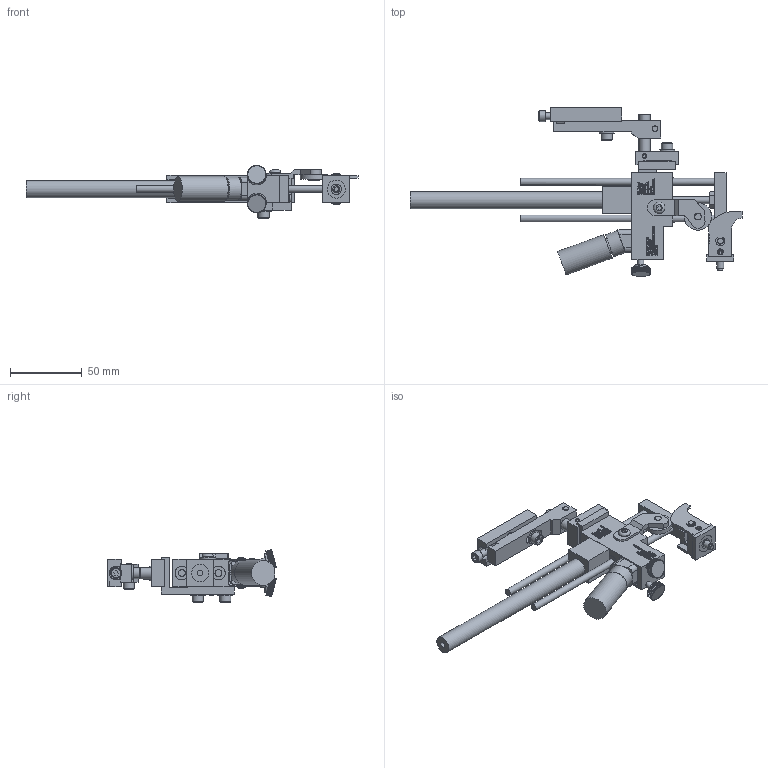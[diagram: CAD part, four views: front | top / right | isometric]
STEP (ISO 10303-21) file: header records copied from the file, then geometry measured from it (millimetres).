
FILE_DESCRIPTION((''),'2;1');
FILE_NAME('C:\Documents and Settings\Ron\My Documents\Inventor\Sprinter Drawing\Machines in Inventor\Model 44\Dot\1-eight\Ext Str\E2\Brkt\90\Model 44 E2 .125 Dia Dot 90 Deg w brkt.stp','2009-01-22T14:35:38',('Ron'),(''),'Autodesk Inventor 2008','Autodesk Inventor 2008','');
FILE_SCHEMA(('AUTOMOTIVE_DESIGN { 1 0 10303 214 1 1 1 1 }'));
Length unit declared in the file: inch
Products named in the file (1): Model 44 E2 .125 Dia Dot 90 Deg w brkt
Bounding box: 230.58 x 117.12 x 36.82 mm (x, y, z)
Volume: 111290.8 mm3; surface area: 53861.7 mm2
Topology: 381 solids, 381 shells, 6206 faces, 15416 edges, 9536 vertices
Faces by surface type: plane 4365, bspline 1316, cylinder 472, cone 48, torus 5
Full cylindrical faces by diameter (mm): 3.175 x5, 3.302 x1, 3.962 x1, 4.064 x6, 4.166 x1, 4.699 x1, 4.75 x4, 4.775 x1, 4.826 x8, 5.144 x1, 5.156 x5, 5.207 x2, 5.41 x2, 6.096 x1, 6.274 x2, 7.239 x1, 7.62 x1, 7.925 x7, 7.938 x1, 8.128 x1, 9.017 x1, 9.525 x2, 10.312 x4, 10.922 x1, 11.036 x1, 11.938 x2, 14.478 x1, 16.256 x1, 17.272 x1, 19.05 x1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
Entity records: 197693 total; most frequent: CARTESIAN_POINT 54064, ORIENTED_EDGE 30388, DIRECTION 23631, EDGE_CURVE 15194, VECTOR 11401, LINE 11401, VERTEX_POINT 9471, EDGE_LOOP 6767
